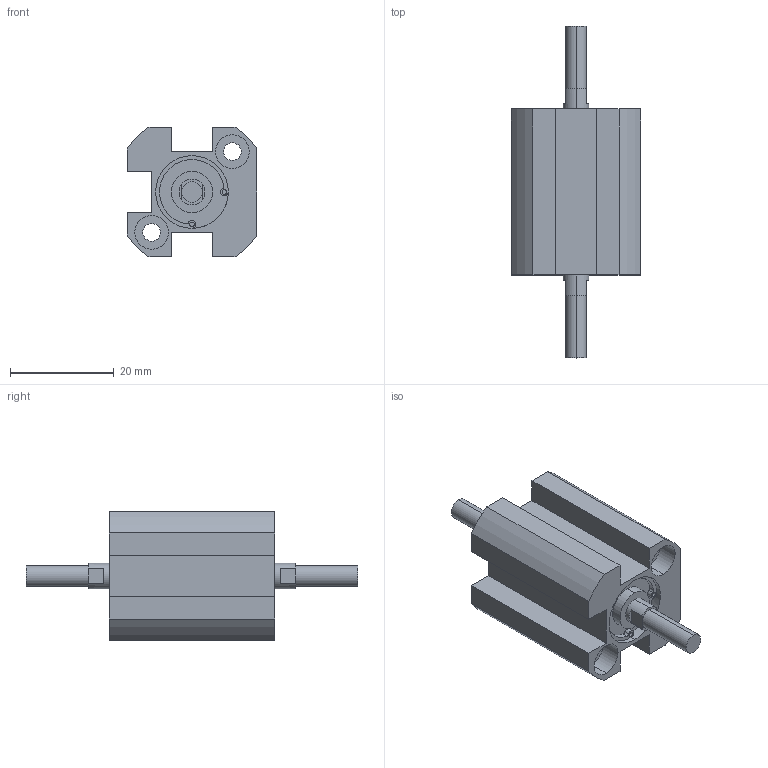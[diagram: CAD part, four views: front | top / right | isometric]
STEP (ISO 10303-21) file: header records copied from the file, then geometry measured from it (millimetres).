
FILE_DESCRIPTION (( 'STEP AP203' ), '1' );
FILE_NAME ('XC#M7-10-10.STEP', '2016-05-23T08:53:10', ( '' ), ( '' ), 'SwSTEP 2.0', 'SolidWorks 2014', '' );
FILE_SCHEMA (( 'CONFIG_CONTROL_DESIGN' ));
Length unit declared in the file: millimetre
Products named in the file (1): XC#M7-10-10
Bounding box: 25 x 64 x 25 mm (x, y, z)
Volume: 14168 mm3; surface area: 6605.6 mm2
Topology: 1 solids, 1 shells, 108 faces, 266 edges, 172 vertices
Faces by surface type: cylinder 58, plane 46, cone 4
Entity records: 3297 total; most frequent: DIRECTION 610, CARTESIAN_POINT 543, ORIENTED_EDGE 524, EDGE_CURVE 262, AXIS2_PLACEMENT_3D 239, VERTEX_POINT 172, VECTOR 132, LINE 132
